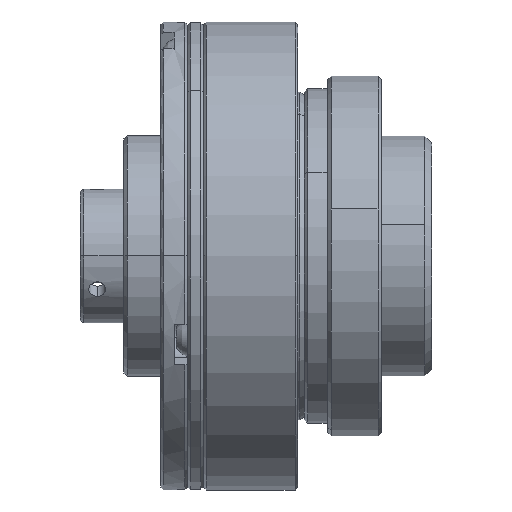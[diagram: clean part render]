
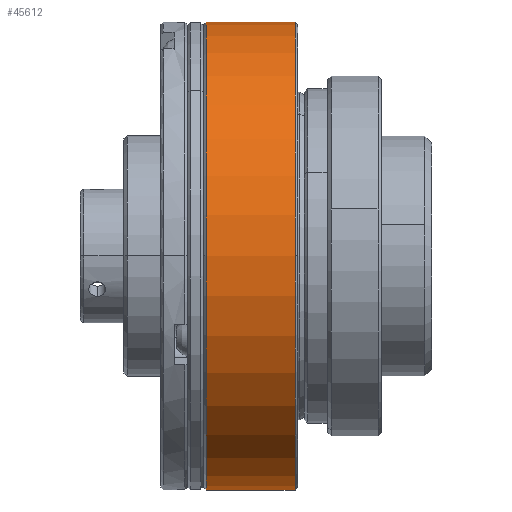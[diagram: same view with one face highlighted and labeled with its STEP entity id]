
A CAD part, top view. The second image highlights one B-rep face of the part: STEP entity #45612.
In plain terms, the highlighted cylindrical face has radius 35 mm (diameter 70 mm), a partial arc.
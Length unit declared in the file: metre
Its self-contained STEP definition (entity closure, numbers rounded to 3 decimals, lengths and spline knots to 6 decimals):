
#203 = CARTESIAN_POINT ( 'NONE',  ( 0.0321, 0., 0.035 ) ) ;
#350 = EDGE_CURVE ( 'NONE', #8094, #28245, #22320, .T. ) ;
#1913 = CARTESIAN_POINT ( 'NONE',  ( 0.010358, 0., 0. ) ) ;
#2120 = VECTOR ( 'NONE', #18100, 1. ) ;
#2562 = ORIENTED_EDGE ( 'NONE', *, *, #25228, .T. ) ;
#3560 = ORIENTED_EDGE ( 'NONE', *, *, #350, .T. ) ;
#3574 = CARTESIAN_POINT ( 'NONE',  ( 0.010358, -0.035, 0. ) ) ;
#4086 = ORIENTED_EDGE ( 'NONE', *, *, #13977, .T. ) ;
#4620 = DIRECTION ( 'NONE',  ( 1., 0., 0. ) ) ;
#5105 = VERTEX_POINT ( 'NONE', #7765 ) ;
#5505 = AXIS2_PLACEMENT_3D ( 'NONE', #1913, #30943, #27392 ) ;
#5777 = DIRECTION ( 'NONE',  ( 0., -1., 0. ) ) ;
#7666 = VERTEX_POINT ( 'NONE', #14322 ) ;
#7746 = DIRECTION ( 'NONE',  ( 0., -1., 0. ) ) ;
#7765 = CARTESIAN_POINT ( 'NONE',  ( 0.0321, -0.035, 0. ) ) ;
#7811 = CARTESIAN_POINT ( 'NONE',  ( 0.010358, 0.035, 0. ) ) ;
#8094 = VERTEX_POINT ( 'NONE', #9414 ) ;
#9414 = CARTESIAN_POINT ( 'NONE',  ( 0.0321, 0.035, 0. ) ) ;
#10298 = CARTESIAN_POINT ( 'NONE',  ( 0.0188, 0., 0.035 ) ) ;
#10955 = DIRECTION ( 'NONE',  ( 0., -1., 0. ) ) ;
#11083 = EDGE_LOOP ( 'NONE', ( #4086, #3560, #19287, #40472, #28112, #2562 ) ) ;
#11769 = CARTESIAN_POINT ( 'NONE',  ( 0.0188, 0., 0. ) ) ;
#13081 = CIRCLE ( 'NONE', #39660, 0.035 ) ;
#13324 = FACE_OUTER_BOUND ( 'NONE', #11083, .T. ) ;
#13395 = DIRECTION ( 'NONE',  ( -1., 0., 0. ) ) ;
#13401 = AXIS2_PLACEMENT_3D ( 'NONE', #11769, #4620, #7746 ) ;
#13977 = EDGE_CURVE ( 'NONE', #28815, #8094, #13081, .T. ) ;
#14283 = DIRECTION ( 'NONE',  ( -1., 0., 0. ) ) ;
#14322 = CARTESIAN_POINT ( 'NONE',  ( 0.0188, -0.035, 0. ) ) ;
#14721 = CARTESIAN_POINT ( 'NONE',  ( 0.0321, 0., 0. ) ) ;
#15316 = CARTESIAN_POINT ( 'NONE',  ( 0.0188, 0., 0. ) ) ;
#18100 = DIRECTION ( 'NONE',  ( -1., 0., 0. ) ) ;
#19287 = ORIENTED_EDGE ( 'NONE', *, *, #41017, .T. ) ;
#19483 = VECTOR ( 'NONE', #36082, 1. ) ;
#20945 = CARTESIAN_POINT ( 'NONE',  ( 0.0321, 0., 0. ) ) ;
#21814 = EDGE_CURVE ( 'NONE', #32288, #7666, #38394, .T. ) ;
#22320 = LINE ( 'NONE', #7811, #19483 ) ;
#25228 = EDGE_CURVE ( 'NONE', #5105, #28815, #41551, .T. ) ;
#25580 = EDGE_CURVE ( 'NONE', #5105, #7666, #31913, .T. ) ;
#27392 = DIRECTION ( 'NONE',  ( 0., -1., 0. ) ) ;
#28112 = ORIENTED_EDGE ( 'NONE', *, *, #25580, .F. ) ;
#28245 = VERTEX_POINT ( 'NONE', #33648 ) ;
#28815 = VERTEX_POINT ( 'NONE', #203 ) ;
#29823 = DIRECTION ( 'NONE',  ( 1., 0., 0. ) ) ;
#30943 = DIRECTION ( 'NONE',  ( -1., 0., 0. ) ) ;
#30964 = AXIS2_PLACEMENT_3D ( 'NONE', #14721, #13395, #5777 ) ;
#31138 = AXIS2_PLACEMENT_3D ( 'NONE', #15316, #29823, #44294 ) ;
#31913 = LINE ( 'NONE', #3574, #2120 ) ;
#31926 = CIRCLE ( 'NONE', #31138, 0.035 ) ;
#32288 = VERTEX_POINT ( 'NONE', #10298 ) ;
#33648 = CARTESIAN_POINT ( 'NONE',  ( 0.0188, 0.035, 0. ) ) ;
#36082 = DIRECTION ( 'NONE',  ( -1., 0., 0. ) ) ;
#38394 = CIRCLE ( 'NONE', #13401, 0.035 ) ;
#39660 = AXIS2_PLACEMENT_3D ( 'NONE', #20945, #14283, #10955 ) ;
#40472 = ORIENTED_EDGE ( 'NONE', *, *, #21814, .T. ) ;
#41017 = EDGE_CURVE ( 'NONE', #28245, #32288, #31926, .T. ) ;
#41551 = CIRCLE ( 'NONE', #30964, 0.035 ) ;
#44294 = DIRECTION ( 'NONE',  ( 0., -1., 0. ) ) ;
#45612 = ADVANCED_FACE ( 'NONE', ( #13324 ), #45877, .T. ) ;
#45877 = CYLINDRICAL_SURFACE ( 'NONE', #5505, 0.035 ) ;
